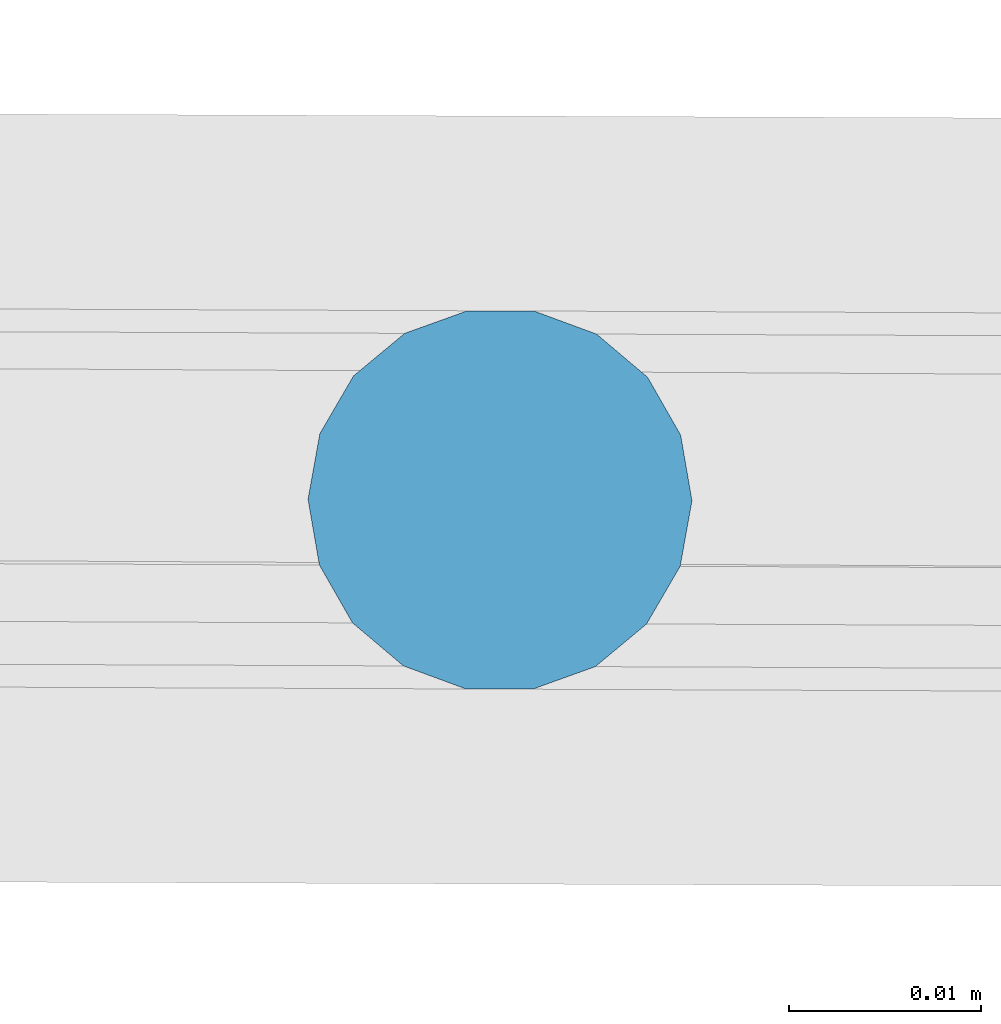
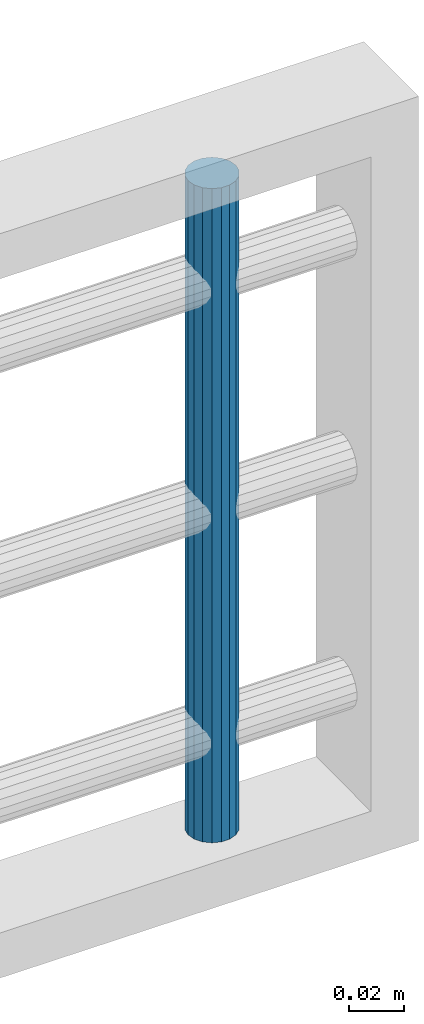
# One storey, part 20 of 39: 1 member, 1 element without a shape of its own.
"""IFC2X3 building model written with IfcOpenShell, lengths in centimetres."""

from ifc_helpers import new_model, entity, si_unit, converted_unit, direction, frame, origin, origin_with_axes, place, context, subcontext, project, spatial, faceted_brep, material, type_object, element, aggregate, save


model = new_model("IFC2X3")

# Units and contexts
model_context = context("Model", 3, precision=0.0001, world=origin(), true_north=direction((0.225632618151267, 0.974212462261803, 0.0)))
body_context = subcontext(model_context, "Body", "Model", "MODEL_VIEW")
ifc_project = project(units=[si_unit("LENGTHUNIT", "METRE", prefix="CENTI"), si_unit("AREAUNIT", "SQUARE_METRE", prefix="CENTI"), si_unit("VOLUMEUNIT", "CUBIC_METRE", prefix="CENTI"), converted_unit("PLANEANGLEUNIT", "DEGREE", entity("IfcRatioMeasure", 0.0174532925), si_unit("PLANEANGLEUNIT", "RADIAN"), dimensions=[0, 0, 0, 0, 0, 0, 0])], contexts=[model_context])

# Site, building, storey
site_placement = place(None, origin_with_axes())
site = spatial("IfcSite", under=ifc_project, at=site_placement, Name="Default Site", CompositionType="ELEMENT")
building_placement = place(site_placement, origin_with_axes())
building = spatial("IfcBuilding", under=site, at=building_placement, Name="Default Building", CompositionType="ELEMENT")
storey_placement = place(building_placement, frame((0.0, 0.0, 1088.91037418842), z_axis=(0.0, 0.0, 1.0), x_axis=(1.0, 0.0, 0.0)))
storey = spatial("IfcBuildingStorey", under=building, at=storey_placement, Name="Mezzanine", CompositionType="ELEMENT", Elevation=1088.91037418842)

# Assembly, member
building_element_proxy_type = type_object("IfcBuildingElementProxyType", Name="Type Object", PredefinedType="NOTDEFINED")
assembly_placement = place(storey_placement, frame((1135.88365779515, -230.612962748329, -220.0), z_axis=(0.0, 0.0, 1.0), x_axis=(0.999992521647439, -0.00386738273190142, 0.0)))
assembly = element("IfcElementAssembly", 1, at=assembly_placement, inside=storey, type_object=building_element_proxy_type, Name="Panneau 1519653", ObjectType="Precast panel", PredefinedType="USERDEFINED")
ifc_material = material(Name="Blanc trafic")
member_placement = place(assembly_placement, frame((138.439691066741, 0.342020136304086, 31.0000002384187), z_axis=(0.0, 0.0, 0.999999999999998), x_axis=(0.500008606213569, -0.8660204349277, 0.0)))
member = element("IfcMember", 2, at=member_placement, material=ifc_material, Name="4294967235", context=body_context, shape_type="Brep", body=[
    faceted_brep([(1.55431223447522e-13, 1.77635683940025e-13, 5.55111512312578e-15), (-0.347298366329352, 2.22044604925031e-13, 5.55111512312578e-15), (-0.673648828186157, -0.118774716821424, 5.55111512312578e-15), (-0.939693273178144, -0.342005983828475, 5.55111512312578e-15), (-1.11334843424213, -0.642778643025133, 5.55111512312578e-15), (-1.17365695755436, -0.984794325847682, 5.55111512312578e-15), (-1.11335044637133, -1.32681067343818, 5.55111512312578e-15), (-0.939707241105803, -1.62758333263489, 5.55111512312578e-15), (-0.673665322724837, -1.85082428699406, 5.55111512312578e-15), (-0.347314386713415, -1.96960935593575, 5.55111512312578e-15), (-1.6020383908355e-05, -1.96960935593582, 5.55111512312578e-15), (0.326334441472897, -1.85083463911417, 5.55111512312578e-15), (0.592378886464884, -1.6276033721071, 5.55111512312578e-15), (0.766034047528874, -1.32683071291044, 5.55111512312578e-15), (0.826342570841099, -0.984815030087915, 5.55111512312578e-15), (0.766036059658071, -0.642798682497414, 5.55111512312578e-15), (0.592392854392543, -0.34202602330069, 5.55111512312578e-15), (0.326350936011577, -0.11878506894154, 5.55111512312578e-15), (0.326350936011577, -0.11878506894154, -29.0000002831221), (0.592392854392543, -0.34202602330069, -29.0000002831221), (0.766036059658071, -0.642798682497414, -29.0000002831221), (0.826342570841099, -0.984815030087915, -29.0000002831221), (0.766034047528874, -1.32683071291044, -29.0000002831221), (0.592378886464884, -1.6276033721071, -29.0000002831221), (0.326334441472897, -1.85083463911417, -29.0000002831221), (-1.6020383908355e-05, -1.96960935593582, -29.0000002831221), (-0.347314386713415, -1.96960935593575, -29.0000002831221), (-0.673665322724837, -1.85082428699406, -29.0000002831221), (-0.939707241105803, -1.62758333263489, -29.0000002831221), (-1.11335044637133, -1.32681067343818, -29.0000002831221), (-1.17365695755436, -0.984794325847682, -29.0000002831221), (-1.11334843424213, -0.642778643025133, -29.0000002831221), (-0.939693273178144, -0.342005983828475, -29.0000002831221), (-0.673648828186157, -0.118774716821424, -29.0000002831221), (-0.347298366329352, 2.22044604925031e-13, -29.0000002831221), (1.55431223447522e-13, 1.77635683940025e-13, -29.0000002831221), (0.592393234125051, -0.342025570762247, 5.55111512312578e-15), (0.592393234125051, -0.342025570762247, -29.0000002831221), (0.766039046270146, -0.642796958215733, 5.55111512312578e-15), (0.766039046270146, -0.642796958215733, -29.0000002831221), (0.826339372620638, -0.984815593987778, 5.55111512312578e-15), (0.826339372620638, -0.984815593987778, -29.0000002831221), (0.766032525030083, -1.32683044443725, 5.55111512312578e-15), (0.766032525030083, -1.32683044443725, -29.0000002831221), (0.59237888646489, -1.6276033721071, 5.55111512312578e-15), (0.59237888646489, -1.6276033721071, -29.0000002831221), (0.326335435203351, -1.85083582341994, 5.55111512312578e-15), (0.326335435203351, -1.85083582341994, -29.0000002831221), (-1.4909685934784e-05, -1.969612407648, 5.55111512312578e-15), (-1.4909685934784e-05, -1.969612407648, -29.0000002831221), (-0.347314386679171, -1.969605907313, 5.55111512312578e-15), (-0.347314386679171, -1.969605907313, -29.0000002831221), (-0.673665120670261, -1.85082373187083, 5.55111512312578e-15), (-0.673665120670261, -1.85082373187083, -29.0000002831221), (-0.939707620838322, -1.62758378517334, 5.55111512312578e-15), (-0.939707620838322, -1.62758378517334, -29.0000002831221), (-1.1133534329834, -1.32681239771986, 5.55111512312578e-15), (-1.1133534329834, -1.32681239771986, -29.0000002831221), (-1.1736537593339, -0.98479376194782, 5.55111512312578e-15), (-1.1736537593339, -0.98479376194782, -29.0000002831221), (-1.11334691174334, -0.642778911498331, 5.55111512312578e-15), (-1.11334691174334, -0.642778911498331, -29.0000002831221), (-0.93969327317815, -0.342005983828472, 5.55111512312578e-15), (-0.93969327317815, -0.342005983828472, -29.0000002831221), (-0.673649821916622, -0.118773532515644, 5.55111512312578e-15), (-0.673649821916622, -0.118773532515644, -29.0000002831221), (-0.347299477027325, 3.05171240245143e-06, 5.55111512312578e-15), (-0.347299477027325, 3.05171240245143e-06, -29.0000002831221), (-3.40888967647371e-11, -3.4486225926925e-06, 5.55111512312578e-15), (-3.40888967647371e-11, -3.4486225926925e-06, -29.0000002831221), (0.326350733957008, -0.118785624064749, 5.55111512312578e-15), (0.326350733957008, -0.118785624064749, -29.0000002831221)], [[[0, 1, 2, 3, 4, 5, 6, 7, 8, 9, 10, 11, 12, 13, 14, 15, 16, 17]], [[18, 19, 20, 21, 22, 23, 24, 25, 26, 27, 28, 29, 30, 31, 32, 33, 34, 35]], [[17, 36, 37, 18]], [[16, 38, 39, 19]], [[15, 40, 41, 20]], [[14, 42, 43, 21]], [[13, 44, 45, 22]], [[12, 46, 47, 23]], [[11, 48, 49, 24]], [[10, 50, 51, 25]], [[9, 52, 53, 26]], [[8, 54, 55, 27]], [[7, 56, 57, 28]], [[6, 58, 59, 29]], [[5, 60, 61, 30]], [[4, 62, 63, 31]], [[3, 64, 65, 32]], [[2, 66, 67, 33]], [[1, 68, 69, 34]], [[0, 70, 71, 35]]]),
])
aggregate(assembly, [member])

save(model, "model.ifc")
